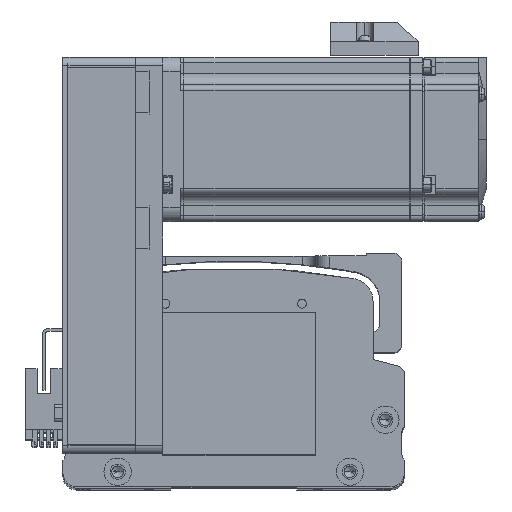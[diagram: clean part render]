
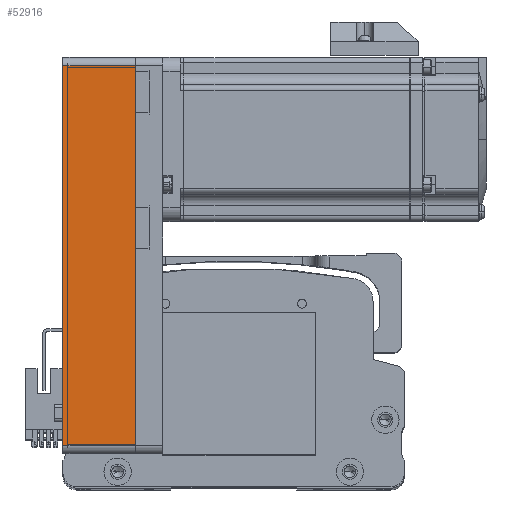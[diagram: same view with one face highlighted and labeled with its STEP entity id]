
A CAD part, top view. The second image highlights one B-rep face of the part: STEP entity #52916.
In plain terms, the highlighted planar face has unit normal (0, 0, 1) as drawn and (0, -1, 0) by its records, which use the part's own axes.
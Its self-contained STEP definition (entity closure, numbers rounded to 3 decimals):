
#9500 = DIRECTION ( 'NONE',  ( 0., 0., 1. ) ) ;
#9965 = ORIENTED_EDGE ( 'NONE', *, *, #66126, .T. ) ;
#14856 = VERTEX_POINT ( 'NONE', #49651 ) ;
#15651 = CARTESIAN_POINT ( 'NONE',  ( -69.5, -30., 26.5 ) ) ;
#19057 = CARTESIAN_POINT ( 'NONE',  ( 72.5, -30., 26.5 ) ) ;
#19877 = CARTESIAN_POINT ( 'NONE',  ( 72.5, -30., 26.5 ) ) ;
#20614 = VERTEX_POINT ( 'NONE', #15651 ) ;
#22551 = ORIENTED_EDGE ( 'NONE', *, *, #59151, .T. ) ;
#22913 = LINE ( 'NONE', #65329, #37485 ) ;
#23348 = DIRECTION ( 'NONE',  ( 1., 0., 0. ) ) ;
#24230 = ORIENTED_EDGE ( 'NONE', *, *, #62466, .F. ) ;
#25008 = PLANE ( 'NONE',  #34825 ) ;
#25295 = DIRECTION ( 'NONE',  ( -1., 0., 0. ) ) ;
#25558 = VECTOR ( 'NONE', #9500, 1000. ) ;
#25671 = VERTEX_POINT ( 'NONE', #72857 ) ;
#28196 = CARTESIAN_POINT ( 'NONE',  ( 69.5, -30., 26.5 ) ) ;
#28300 = DIRECTION ( 'NONE',  ( 0., 0., -1. ) ) ;
#34825 = AXIS2_PLACEMENT_3D ( 'NONE', #19057, #62318, #25295 ) ;
#35818 = CARTESIAN_POINT ( 'NONE',  ( 72.5, -30., 0. ) ) ;
#37485 = VECTOR ( 'NONE', #28300, 1000. ) ;
#42629 = VECTOR ( 'NONE', #63159, 1000. ) ;
#46386 = EDGE_LOOP ( 'NONE', ( #9965, #52718, #24230, #22551 ) ) ;
#49651 = CARTESIAN_POINT ( 'NONE',  ( 69.5, -30., 26.5 ) ) ;
#49800 = CARTESIAN_POINT ( 'NONE',  ( -69.5, -30., 0. ) ) ;
#52718 = ORIENTED_EDGE ( 'NONE', *, *, #64835, .T. ) ;
#52916 = ADVANCED_FACE ( 'NONE', ( #57798 ), #25008, .F. ) ;
#57123 = LINE ( 'NONE', #19877, #42629 ) ;
#57798 = FACE_OUTER_BOUND ( 'NONE', #46386, .T. ) ;
#58434 = LINE ( 'NONE', #28196, #25558 ) ;
#59151 = EDGE_CURVE ( 'NONE', #20614, #79684, #22913, .T. ) ;
#62318 = DIRECTION ( 'NONE',  ( 0., 1., 0. ) ) ;
#62466 = EDGE_CURVE ( 'NONE', #20614, #14856, #57123, .T. ) ;
#63159 = DIRECTION ( 'NONE',  ( 1., 0., 0. ) ) ;
#64835 = EDGE_CURVE ( 'NONE', #25671, #14856, #58434, .T. ) ;
#65329 = CARTESIAN_POINT ( 'NONE',  ( -69.5, -30., 26.5 ) ) ;
#66126 = EDGE_CURVE ( 'NONE', #79684, #25671, #72667, .T. ) ;
#70689 = VECTOR ( 'NONE', #23348, 1000. ) ;
#72667 = LINE ( 'NONE', #35818, #70689 ) ;
#72857 = CARTESIAN_POINT ( 'NONE',  ( 69.5, -30., 0. ) ) ;
#79684 = VERTEX_POINT ( 'NONE', #49800 ) ;
